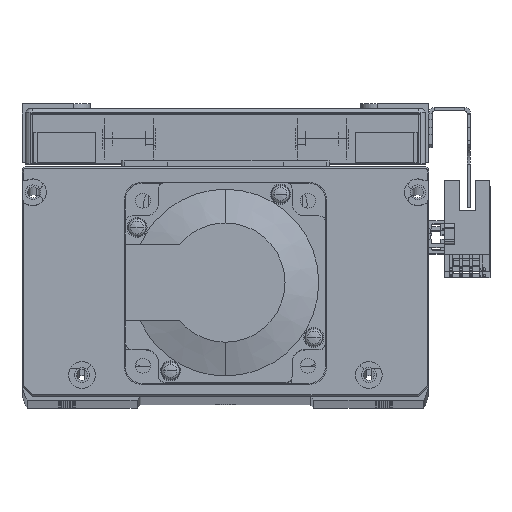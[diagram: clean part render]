
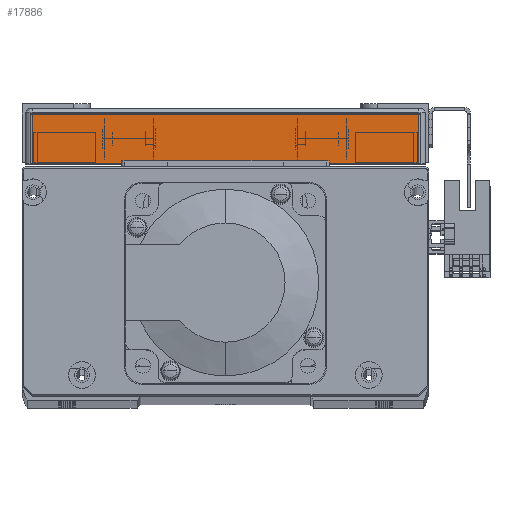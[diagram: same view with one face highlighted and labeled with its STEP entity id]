
A CAD part, top view. The second image highlights one B-rep face of the part: STEP entity #17886.
In plain terms, the highlighted planar face has unit normal (0, 0, 1) as drawn and (1, 0, 0) by its records, which use the part's own axes.
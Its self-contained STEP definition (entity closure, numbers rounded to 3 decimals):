
#2047 = EDGE_LOOP ( 'NONE', ( #6432, #6331, #6540, #6412 ) ) ;
#6331 = ORIENTED_EDGE ( 'NONE', *, *, #39837, .T. ) ;
#6412 = ORIENTED_EDGE ( 'NONE', *, *, #39826, .T. ) ;
#6432 = ORIENTED_EDGE ( 'NONE', *, *, #39854, .T. ) ;
#6540 = ORIENTED_EDGE ( 'NONE', *, *, #39808, .T. ) ;
#13104 = FACE_OUTER_BOUND ( 'NONE', #2047, .T. ) ;
#14303 = DIRECTION ( 'NONE',  ( -1., 0., 0. ) ) ;
#14305 = PLANE ( 'NONE',  #26237 ) ;
#14315 = CARTESIAN_POINT ( 'NONE',  ( 85.5, 16.5, -60. ) ) ;
#14319 = DIRECTION ( 'NONE',  ( 0., 0., 1. ) ) ;
#17886 = ADVANCED_FACE ( 'NONE', ( #13104 ), #14305, .F. ) ;
#21134 = VERTEX_POINT ( 'NONE', #30723 ) ;
#21194 = VERTEX_POINT ( 'NONE', #30796 ) ;
#21284 = VERTEX_POINT ( 'NONE', #30755 ) ;
#21376 = VERTEX_POINT ( 'NONE', #30857 ) ;
#26237 = AXIS2_PLACEMENT_3D ( 'NONE', #14315, #14303, #14319 ) ;
#30723 = CARTESIAN_POINT ( 'NONE',  ( 85.5, 0., -58. ) ) ;
#30755 = CARTESIAN_POINT ( 'NONE',  ( 85.5, 0., 58. ) ) ;
#30796 = CARTESIAN_POINT ( 'NONE',  ( 85.5, 15.5, -58. ) ) ;
#30857 = CARTESIAN_POINT ( 'NONE',  ( 85.5, 15.5, 58. ) ) ;
#39808 = EDGE_CURVE ( 'NONE', #21376, #21284, #55711, .T. ) ;
#39826 = EDGE_CURVE ( 'NONE', #21284, #21134, #55734, .T. ) ;
#39837 = EDGE_CURVE ( 'NONE', #21194, #21376, #55744, .T. ) ;
#39854 = EDGE_CURVE ( 'NONE', #21134, #21194, #55717, .T. ) ;
#55711 = LINE ( 'NONE', #56771, #55725 ) ;
#55717 = LINE ( 'NONE', #56824, #55751 ) ;
#55725 = VECTOR ( 'NONE', #56779, 1000. ) ;
#55734 = LINE ( 'NONE', #56826, #55742 ) ;
#55742 = VECTOR ( 'NONE', #56799, 1000. ) ;
#55744 = LINE ( 'NONE', #56798, #55749 ) ;
#55749 = VECTOR ( 'NONE', #56813, 1000. ) ;
#55751 = VECTOR ( 'NONE', #56811, 1000. ) ;
#56771 = CARTESIAN_POINT ( 'NONE',  ( 85.5, 16.5, 58. ) ) ;
#56779 = DIRECTION ( 'NONE',  ( 0., -1., 0. ) ) ;
#56798 = CARTESIAN_POINT ( 'NONE',  ( 85.5, 15.5, 58. ) ) ;
#56799 = DIRECTION ( 'NONE',  ( 0., 0., -1. ) ) ;
#56811 = DIRECTION ( 'NONE',  ( 0., 1., 0. ) ) ;
#56813 = DIRECTION ( 'NONE',  ( 0., 0., 1. ) ) ;
#56824 = CARTESIAN_POINT ( 'NONE',  ( 85.5, 16.5, -58. ) ) ;
#56826 = CARTESIAN_POINT ( 'NONE',  ( 85.5, 0., -60. ) ) ;
